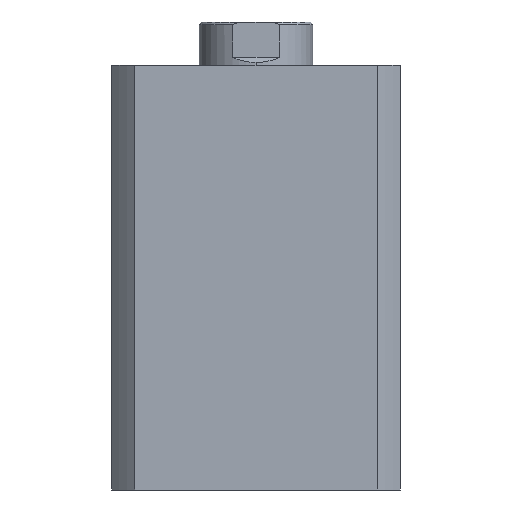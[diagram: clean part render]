
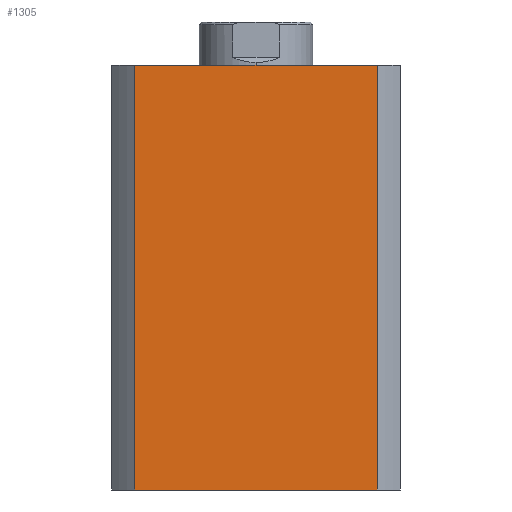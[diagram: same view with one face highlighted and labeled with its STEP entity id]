
A CAD part, left-side view. The second image highlights one B-rep face of the part: STEP entity #1305.
In plain terms, the highlighted planar face has unit normal (-1, 0, 0).
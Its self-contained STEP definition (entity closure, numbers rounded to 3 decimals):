
#11 = CARTESIAN_POINT ( 'NONE',  ( -57., 47.971, 168. ) ) ;
#142 = CARTESIAN_POINT ( 'NONE',  ( -57., -47.971, 0. ) ) ;
#150 = CARTESIAN_POINT ( 'NONE',  ( -57., 47.971, 0. ) ) ;
#180 = CARTESIAN_POINT ( 'NONE',  ( -57., -47.971, 168. ) ) ;
#219 = EDGE_LOOP ( 'NONE', ( #1774, #1775, #1776, #1777 ) ) ;
#295 = EDGE_CURVE ( 'NONE', #4850, #4854, #2138, .T. ) ;
#491 = FACE_OUTER_BOUND ( 'NONE', #219, .T. ) ;
#687 = LINE ( 'NONE', #4207, #690 ) ;
#690 = VECTOR ( 'NONE', #4200, 1000. ) ;
#907 = DIRECTION ( 'NONE',  ( 0., 0., -1. ) ) ;
#908 = DIRECTION ( 'NONE',  ( 1., 0., 0. ) ) ;
#910 = PLANE ( 'NONE',  #3466 ) ;
#918 = CARTESIAN_POINT ( 'NONE',  ( -57., 0., 168. ) ) ;
#1133 = DIRECTION ( 'NONE',  ( 0., -1., 0. ) ) ;
#1141 = CARTESIAN_POINT ( 'NONE',  ( -57., 0., 0. ) ) ;
#1305 = ADVANCED_FACE ( 'NONE', ( #491 ), #910, .F. ) ;
#1774 = ORIENTED_EDGE ( 'NONE', *, *, #295, .T. ) ;
#1775 = ORIENTED_EDGE ( 'NONE', *, *, #3688, .F. ) ;
#1776 = ORIENTED_EDGE ( 'NONE', *, *, #3637, .F. ) ;
#1777 = ORIENTED_EDGE ( 'NONE', *, *, #3691, .T. ) ;
#2138 = LINE ( 'NONE', #1141, #2143 ) ;
#2143 = VECTOR ( 'NONE', #1133, 1000. ) ;
#2752 = LINE ( 'NONE', #4179, #2755 ) ;
#2755 = VECTOR ( 'NONE', #4178, 1000. ) ;
#2758 = LINE ( 'NONE', #4173, #2761 ) ;
#2761 = VECTOR ( 'NONE', #4172, 1000. ) ;
#3466 = AXIS2_PLACEMENT_3D ( 'NONE', #918, #908, #907 ) ;
#3637 = EDGE_CURVE ( 'NONE', #4928, #4935, #687, .T. ) ;
#3688 = EDGE_CURVE ( 'NONE', #4935, #4854, #2752, .T. ) ;
#3691 = EDGE_CURVE ( 'NONE', #4928, #4850, #2758, .T. ) ;
#4172 = DIRECTION ( 'NONE',  ( 0., 0., -1. ) ) ;
#4173 = CARTESIAN_POINT ( 'NONE',  ( -57., 47.971, 168. ) ) ;
#4178 = DIRECTION ( 'NONE',  ( 0., 0., -1. ) ) ;
#4179 = CARTESIAN_POINT ( 'NONE',  ( -57., -47.971, 168. ) ) ;
#4200 = DIRECTION ( 'NONE',  ( 0., -1., 0. ) ) ;
#4207 = CARTESIAN_POINT ( 'NONE',  ( -57., 0., 168. ) ) ;
#4850 = VERTEX_POINT ( 'NONE', #150 ) ;
#4854 = VERTEX_POINT ( 'NONE', #142 ) ;
#4928 = VERTEX_POINT ( 'NONE', #11 ) ;
#4935 = VERTEX_POINT ( 'NONE', #180 ) ;
